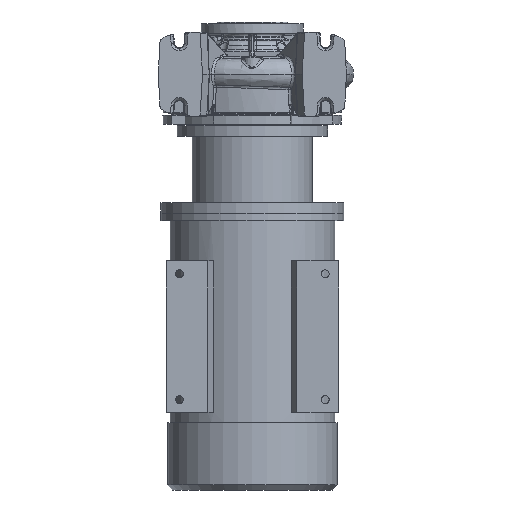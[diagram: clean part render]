
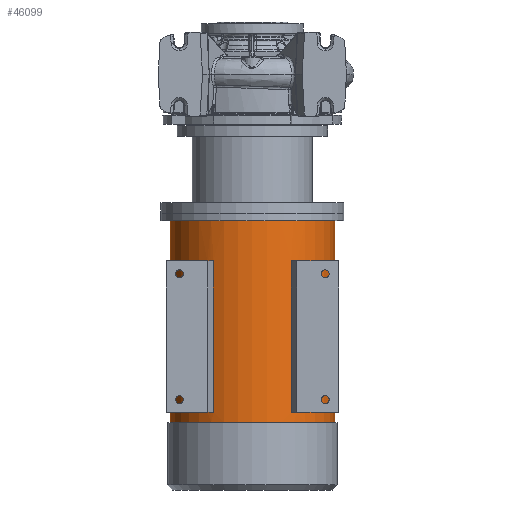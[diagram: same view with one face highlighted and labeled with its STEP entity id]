
A CAD part, front view. The second image highlights one B-rep face of the part: STEP entity #46099.
In plain terms, the highlighted cylindrical face has radius 157.5 mm (diameter 315 mm), a partial arc.
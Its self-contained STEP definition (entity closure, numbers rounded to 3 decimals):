
#1069 = CARTESIAN_POINT ( 'NONE',  ( -157.5, 0., -795.8 ) ) ;
#3855 = DIRECTION ( 'NONE',  ( -1., 0., 0. ) ) ;
#3974 = VECTOR ( 'NONE', #92273, 1000. ) ;
#4949 = FACE_OUTER_BOUND ( 'NONE', #25216, .T. ) ;
#5101 = CARTESIAN_POINT ( 'NONE',  ( 0., 0., -280.8 ) ) ;
#5995 = CARTESIAN_POINT ( 'NONE',  ( 86.091, -131.889, -357.3 ) ) ;
#6707 = CARTESIAN_POINT ( 'NONE',  ( 0., 0., -357.3 ) ) ;
#8952 = DIRECTION ( 'NONE',  ( 0., 0., -1. ) ) ;
#9287 = CARTESIAN_POINT ( 'NONE',  ( -157.5, 0., -666.8 ) ) ;
#11563 = LINE ( 'NONE', #85546, #65001 ) ;
#11628 = VERTEX_POINT ( 'NONE', #14774 ) ;
#11667 = EDGE_CURVE ( 'NONE', #50529, #29888, #19124, .T. ) ;
#11754 = VERTEX_POINT ( 'NONE', #17923 ) ;
#12775 = ORIENTED_EDGE ( 'NONE', *, *, #11667, .T. ) ;
#13106 = ORIENTED_EDGE ( 'NONE', *, *, #46017, .T. ) ;
#13295 = DIRECTION ( 'NONE',  ( -1., 0., 0. ) ) ;
#13808 = CARTESIAN_POINT ( 'NONE',  ( 86.091, -131.889, -647.3 ) ) ;
#14774 = CARTESIAN_POINT ( 'NONE',  ( -86.091, -131.889, -357.3 ) ) ;
#15062 = CARTESIAN_POINT ( 'NONE',  ( -157.5, 0., -280.8 ) ) ;
#17171 = DIRECTION ( 'NONE',  ( 0., 0., 1. ) ) ;
#17923 = CARTESIAN_POINT ( 'NONE',  ( -74.479, -138.777, -357.3 ) ) ;
#19124 = LINE ( 'NONE', #23035, #70265 ) ;
#19393 = EDGE_LOOP ( 'NONE', ( #89493, #72305, #13106, #12775 ) ) ;
#21470 = AXIS2_PLACEMENT_3D ( 'NONE', #62132, #84667, #93498 ) ;
#22573 = AXIS2_PLACEMENT_3D ( 'NONE', #75027, #17171, #24489 ) ;
#23035 = CARTESIAN_POINT ( 'NONE',  ( 86.091, -131.889, -795.8 ) ) ;
#23200 = FACE_BOUND ( 'NONE', #87287, .T. ) ;
#23874 = CIRCLE ( 'NONE', #54210, 157.5 ) ;
#24489 = DIRECTION ( 'NONE',  ( -1., 0., 0. ) ) ;
#24702 = CARTESIAN_POINT ( 'NONE',  ( 157.5, 0., -280.8 ) ) ;
#25216 = EDGE_LOOP ( 'NONE', ( #59711, #70243, #40038, #78897 ) ) ;
#25978 = DIRECTION ( 'NONE',  ( 0., 0., 1. ) ) ;
#26849 = DIRECTION ( 'NONE',  ( -1., 0., 0. ) ) ;
#27809 = EDGE_CURVE ( 'NONE', #91172, #58276, #54838, .T. ) ;
#28057 = CIRCLE ( 'NONE', #22573, 157.5 ) ;
#28668 = DIRECTION ( 'NONE',  ( 0., 0., -1. ) ) ;
#29888 = VERTEX_POINT ( 'NONE', #13808 ) ;
#30103 = AXIS2_PLACEMENT_3D ( 'NONE', #6707, #28668, #35039 ) ;
#31178 = EDGE_CURVE ( 'NONE', #11754, #11628, #54221, .T. ) ;
#31321 = EDGE_CURVE ( 'NONE', #11628, #63244, #34865, .T. ) ;
#33275 = VECTOR ( 'NONE', #8952, 1000. ) ;
#34076 = CARTESIAN_POINT ( 'NONE',  ( 157.5, 0., -666.8 ) ) ;
#34113 = LINE ( 'NONE', #76516, #53439 ) ;
#34288 = AXIS2_PLACEMENT_3D ( 'NONE', #40523, #55784, #26849 ) ;
#34865 = LINE ( 'NONE', #87730, #45069 ) ;
#35039 = DIRECTION ( 'NONE',  ( 1., 0., 0. ) ) ;
#35497 = CARTESIAN_POINT ( 'NONE',  ( 74.479, -138.777, -647.3 ) ) ;
#37388 = VERTEX_POINT ( 'NONE', #9287 ) ;
#39046 = CYLINDRICAL_SURFACE ( 'NONE', #21470, 157.5 ) ;
#40038 = ORIENTED_EDGE ( 'NONE', *, *, #70747, .T. ) ;
#40345 = ORIENTED_EDGE ( 'NONE', *, *, #75836, .F. ) ;
#40500 = ORIENTED_EDGE ( 'NONE', *, *, #31178, .F. ) ;
#40523 = CARTESIAN_POINT ( 'NONE',  ( 0., 0., -357.3 ) ) ;
#40705 = DIRECTION ( 'NONE',  ( 0., 0., -1. ) ) ;
#42532 = FACE_BOUND ( 'NONE', #19393, .T. ) ;
#42845 = DIRECTION ( 'NONE',  ( 0., 0., -1. ) ) ;
#44904 = LINE ( 'NONE', #55485, #3974 ) ;
#45069 = VECTOR ( 'NONE', #52447, 1000. ) ;
#46017 = EDGE_CURVE ( 'NONE', #66216, #50529, #73193, .T. ) ;
#46099 = ADVANCED_FACE ( 'NONE', ( #4949, #42532, #23200 ), #39046, .T. ) ;
#46148 = CARTESIAN_POINT ( 'NONE',  ( 74.479, -138.777, -357.3 ) ) ;
#50529 = VERTEX_POINT ( 'NONE', #5995 ) ;
#52447 = DIRECTION ( 'NONE',  ( 0., 0., -1. ) ) ;
#52566 = DIRECTION ( 'NONE',  ( 0., 0., -1. ) ) ;
#53439 = VECTOR ( 'NONE', #25978, 1000. ) ;
#53857 = CARTESIAN_POINT ( 'NONE',  ( 0., 0., -647.3 ) ) ;
#54210 = AXIS2_PLACEMENT_3D ( 'NONE', #53857, #68458, #84002 ) ;
#54221 = CIRCLE ( 'NONE', #30103, 157.5 ) ;
#54838 = CIRCLE ( 'NONE', #86569, 157.5 ) ;
#55485 = CARTESIAN_POINT ( 'NONE',  ( 157.5, 0., -795.8 ) ) ;
#55784 = DIRECTION ( 'NONE',  ( 0., 0., 1. ) ) ;
#57282 = DIRECTION ( 'NONE',  ( 0., 0., 1. ) ) ;
#58276 = VERTEX_POINT ( 'NONE', #15062 ) ;
#58919 = CARTESIAN_POINT ( 'NONE',  ( -74.479, -138.777, -647.3 ) ) ;
#59711 = ORIENTED_EDGE ( 'NONE', *, *, #84282, .F. ) ;
#60813 = EDGE_CURVE ( 'NONE', #67239, #29888, #28057, .T. ) ;
#62132 = CARTESIAN_POINT ( 'NONE',  ( 0., 0., -795.8 ) ) ;
#63244 = VERTEX_POINT ( 'NONE', #67286 ) ;
#65001 = VECTOR ( 'NONE', #57282, 1000. ) ;
#66216 = VERTEX_POINT ( 'NONE', #46148 ) ;
#67239 = VERTEX_POINT ( 'NONE', #35497 ) ;
#67286 = CARTESIAN_POINT ( 'NONE',  ( -86.091, -131.889, -647.3 ) ) ;
#68325 = VERTEX_POINT ( 'NONE', #58919 ) ;
#68454 = LINE ( 'NONE', #1069, #33275 ) ;
#68458 = DIRECTION ( 'NONE',  ( 0., 0., -1. ) ) ;
#68933 = VERTEX_POINT ( 'NONE', #34076 ) ;
#70243 = ORIENTED_EDGE ( 'NONE', *, *, #27809, .T. ) ;
#70265 = VECTOR ( 'NONE', #52566, 1000. ) ;
#70747 = EDGE_CURVE ( 'NONE', #58276, #37388, #68454, .T. ) ;
#72305 = ORIENTED_EDGE ( 'NONE', *, *, #79729, .T. ) ;
#73193 = CIRCLE ( 'NONE', #34288, 157.5 ) ;
#74330 = AXIS2_PLACEMENT_3D ( 'NONE', #86352, #42845, #13295 ) ;
#75027 = CARTESIAN_POINT ( 'NONE',  ( 0., 0., -647.3 ) ) ;
#75836 = EDGE_CURVE ( 'NONE', #68325, #11754, #11563, .T. ) ;
#76516 = CARTESIAN_POINT ( 'NONE',  ( 74.479, -138.777, -795.8 ) ) ;
#78897 = ORIENTED_EDGE ( 'NONE', *, *, #87464, .F. ) ;
#79729 = EDGE_CURVE ( 'NONE', #67239, #66216, #34113, .T. ) ;
#79924 = ORIENTED_EDGE ( 'NONE', *, *, #80237, .T. ) ;
#80237 = EDGE_CURVE ( 'NONE', #68325, #63244, #23874, .T. ) ;
#81719 = ORIENTED_EDGE ( 'NONE', *, *, #31321, .F. ) ;
#84002 = DIRECTION ( 'NONE',  ( 1., 0., 0. ) ) ;
#84282 = EDGE_CURVE ( 'NONE', #91172, #68933, #44904, .T. ) ;
#84667 = DIRECTION ( 'NONE',  ( 0., 0., -1. ) ) ;
#85546 = CARTESIAN_POINT ( 'NONE',  ( -74.479, -138.777, -795.8 ) ) ;
#86352 = CARTESIAN_POINT ( 'NONE',  ( 0., 0., -666.8 ) ) ;
#86569 = AXIS2_PLACEMENT_3D ( 'NONE', #5101, #40705, #3855 ) ;
#87287 = EDGE_LOOP ( 'NONE', ( #40345, #79924, #81719, #40500 ) ) ;
#87464 = EDGE_CURVE ( 'NONE', #68933, #37388, #89120, .T. ) ;
#87730 = CARTESIAN_POINT ( 'NONE',  ( -86.091, -131.889, -795.8 ) ) ;
#89120 = CIRCLE ( 'NONE', #74330, 157.5 ) ;
#89493 = ORIENTED_EDGE ( 'NONE', *, *, #60813, .F. ) ;
#91172 = VERTEX_POINT ( 'NONE', #24702 ) ;
#92273 = DIRECTION ( 'NONE',  ( 0., 0., -1. ) ) ;
#93498 = DIRECTION ( 'NONE',  ( -1., 0., 0. ) ) ;
